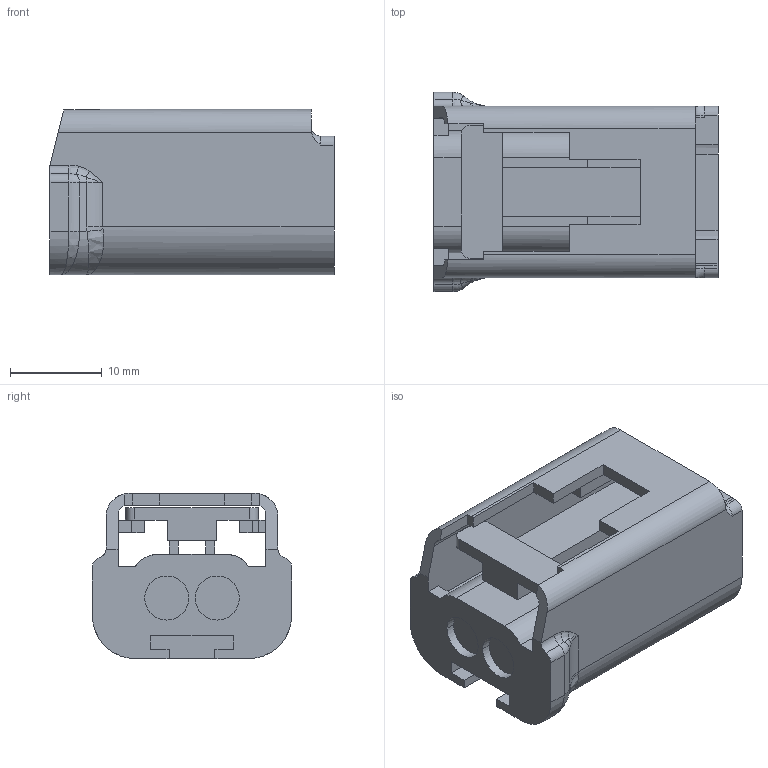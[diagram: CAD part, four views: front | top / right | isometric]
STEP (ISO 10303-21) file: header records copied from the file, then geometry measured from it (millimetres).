
FILE_DESCRIPTION(('CATIA V5 STEP Exchange','CAx-IF Rec.Pracs.--- Model Styling and Organization---1.2---2011-12-15'),'2;1');
FILE_NAME('\\Fss01.ad.sws.co.jp\fs030008\技術管理部\共通\業務\3D設計推進\カタログ用３Ｄ\仮置き\US(Sealed)\6189-7171.stp','2016-02-18T02:01:38+00:00',('none'),('none'),'CATIA Version 5-6 Release 2013 SP5 HF43','CATIA V5 STEP AP214','none');
FILE_SCHEMA(('AUTOMOTIVE_DESIGN { 1 0 10303 214 1 1 1 1 }'));
Length unit declared in the file: millimetre
Products named in the file (1): 6189-7171
Bounding box: 30.95 x 21.7 x 18 mm (x, y, z)
Volume: 6015.6 mm3; surface area: 5120.5 mm2
Topology: 1 solids, 1 shells, 173 faces, 490 edges, 318 vertices
Faces by surface type: plane 111, cylinder 42, bspline 12, torus 6, extrusion 2
Entity records: 6079 total; most frequent: CARTESIAN_POINT 1650, ORIENTED_EDGE 968, DIRECTION 707, EDGE_CURVE 484, VECTOR 354, LINE 352, VERTEX_POINT 318, AXIS2_PLACEMENT_3D 219
